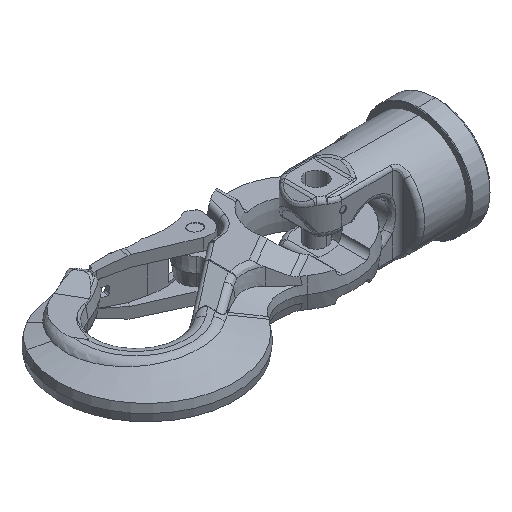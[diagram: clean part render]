
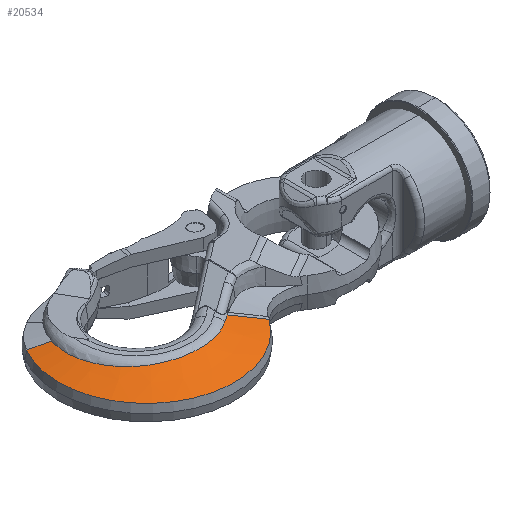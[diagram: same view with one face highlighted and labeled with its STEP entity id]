
A CAD part, isometric view. The second image highlights one B-rep face of the part: STEP entity #20534.
In plain terms, the highlighted conical face has half-angle 76 degrees and reference radius 63.001 mm.
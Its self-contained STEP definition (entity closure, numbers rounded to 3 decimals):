
#16895=CARTESIAN_POINT('',(-21.194,11.44,
55.898));
#16896=CARTESIAN_POINT('',(-19.086,11.541,
56.658));
#16897=CARTESIAN_POINT('',(-14.776,11.747,
57.937));
#16898=CARTESIAN_POINT('',(-8.146,12.072,
59.096));
#16899=CARTESIAN_POINT('',(-1.4,12.411,
59.48));
#16900=CARTESIAN_POINT('',(5.292,12.757,59.079));
#16901=CARTESIAN_POINT('',(11.852,13.107,57.916));
#16902=CARTESIAN_POINT('',(18.228,13.459,56.008));
#16903=CARTESIAN_POINT('',(24.366,13.811,53.36));
#16904=CARTESIAN_POINT('',(30.124,14.153,50.036));
#16905=CARTESIAN_POINT('',(35.486,14.485,46.049));
#16906=CARTESIAN_POINT('',(40.35,14.799,41.465));
#16907=CARTESIAN_POINT('',(44.677,15.087,36.326));
#16908=CARTESIAN_POINT('',(48.432,15.345,30.655));
#16909=CARTESIAN_POINT('',(51.566,15.563,24.473));
#16910=CARTESIAN_POINT('',(53.994,15.726,17.911));
#16911=CARTESIAN_POINT('',(55.684,15.824,11.043));
#16912=CARTESIAN_POINT('',(56.598,15.849,3.972));
#16913=CARTESIAN_POINT('',(56.715,15.796,
-3.13));
#16914=CARTESIAN_POINT('',(56.039,15.673,
-10.147));
#16915=CARTESIAN_POINT('',(54.588,15.489,
-16.953));
#16916=CARTESIAN_POINT('',(52.405,15.257,
-23.443));
#16917=CARTESIAN_POINT('',(49.523,14.987,
-29.574));
#16918=CARTESIAN_POINT('',(47.161,14.787,
-33.382));
#16919=CARTESIAN_POINT('',(45.879,14.684,
-35.205));
#16921=CARTESIAN_POINT('',(45.879,14.684,
-35.205));
#16922=CARTESIAN_POINT('',(45.354,14.642,
-35.952));
#16923=CARTESIAN_POINT('',(44.295,14.541,
-37.478));
#16924=CARTESIAN_POINT('',(42.685,14.34,
-39.856));
#16925=CARTESIAN_POINT('',(41.593,14.173,
-41.498));
#16926=CARTESIAN_POINT('',(41.041,14.081,
-42.332));
#16928=DIRECTION('',(0.557,-0.242,-0.795));
#16929=VECTOR('',#16928,28.082);
#16930=CARTESIAN_POINT('',(41.041,14.081,
-42.332));
#16931=LINE('',#16930,#16929);
#16932=DIRECTION('',(-0.487,-0.242,0.839));
#16933=VECTOR('',#16932,17.165);
#16934=CARTESIAN_POINT('',(-21.194,11.44,
55.898));
#16935=LINE('',#16934,#16933);
#16985=CARTESIAN_POINT('',(10.7,7.288,1.));
#16986=DIRECTION('',(0.,-1.,0.));
#16987=DIRECTION('',(0.574,0.,-0.819));
#16988=AXIS2_PLACEMENT_3D('',#16985,#16986,#16987);
#18949=CARTESIAN_POINT('',(56.67,7.288,
-64.652));
#18951=VERTEX_POINT('',#18949);
#18952=CARTESIAN_POINT('',(-29.561,7.288,
70.299));
#18953=VERTEX_POINT('',#18952);
#19001=CARTESIAN_POINT('',(-21.194,11.44,
55.898));
#19002=VERTEX_POINT('',#19001);
#19007=CARTESIAN_POINT('',(41.041,14.081,
-42.332));
#19008=VERTEX_POINT('',#19007);
#19058=VERTEX_POINT('',#16921);
#20519=CARTESIAN_POINT('',(10.7,11.563,1.));
#20520=DIRECTION('',(0.,-1.,0.));
#20521=DIRECTION('',(-0.574,0.,0.819));
#20522=AXIS2_PLACEMENT_3D('',#20519,#20520,#20521);
#20523=CONICAL_SURFACE('',#20522,63.,76.);
#20525=ORIENTED_EDGE('',*,*,#20524,.F.);
#20526=ORIENTED_EDGE('',*,*,#20506,.T.);
#20527=ORIENTED_EDGE('',*,*,#19980,.T.);
#20529=ORIENTED_EDGE('',*,*,#20528,.T.);
#20531=ORIENTED_EDGE('',*,*,#20530,.T.);
#20532=EDGE_LOOP('',(#20525,#20526,#20527,#20529,#20531));
#20533=FACE_OUTER_BOUND('',#20532,.F.);
#20534=ADVANCED_FACE('',(#20533),#20523,.T.);
#16920=B_SPLINE_CURVE_WITH_KNOTS('',3,(#16895,#16896,#16897,#16898,#16899,
#16900,#16901,#16902,#16903,#16904,#16905,#16906,#16907,#16908,#16909,#16910,
#16911,#16912,#16913,#16914,#16915,#16916,#16917,#16918,#16919),.UNSPECIFIED.,
.F.,.F.,(4,1,1,1,1,1,1,1,1,1,1,1,1,1,1,1,1,1,1,1,1,1,4),(0.,0.045,
0.091,0.136,0.182,0.227,
0.273,0.318,0.364,0.409,
0.455,0.5,0.545,0.591,0.636,
0.682,0.727,0.773,0.818,
0.864,0.909,0.955,1.),.UNSPECIFIED.);
#16927=B_SPLINE_CURVE_WITH_KNOTS('',3,(#16921,#16922,#16923,#16924,#16925,
#16926),.UNSPECIFIED.,.F.,.F.,(4,1,1,4),(0.,0.333,
0.667,1.),.UNSPECIFIED.);
#16989=CIRCLE('',#16988,80.146);
#19980=EDGE_CURVE('',#19058,#19008,#16927,.T.);
#20506=EDGE_CURVE('',#19002,#19058,#16920,.T.);
#20524=EDGE_CURVE('',#19002,#18953,#16935,.T.);
#20528=EDGE_CURVE('',#19008,#18951,#16931,.T.);
#20530=EDGE_CURVE('',#18951,#18953,#16989,.T.);
